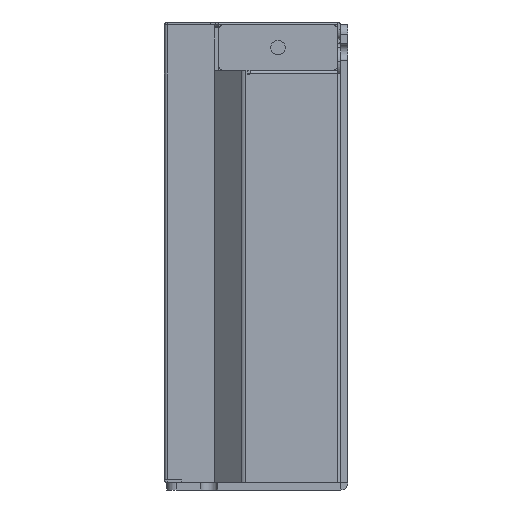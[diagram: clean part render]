
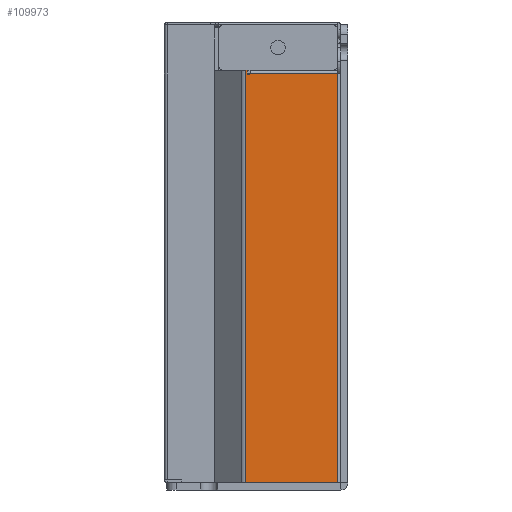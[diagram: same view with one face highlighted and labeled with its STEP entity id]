
A CAD part, left-side view. The second image highlights one B-rep face of the part: STEP entity #109973.
In plain terms, the highlighted planar face has unit normal (-1, 0, 0).
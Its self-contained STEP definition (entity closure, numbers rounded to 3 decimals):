
#67965=DIRECTION('',(0.,0.,1.));
#67966=VECTOR('',#67965,0.3);
#67967=CARTESIAN_POINT('',(-67.45,-37.85,-17.149));
#67968=LINE('',#67967,#67966);
#68029=DIRECTION('',(0.,1.,0.));
#68030=VECTOR('',#68029,85.5);
#68031=CARTESIAN_POINT('',(-67.45,-37.85,-16.849));
#68032=LINE('',#68031,#68030);
#68037=CARTESIAN_POINT('',(-67.45,-37.25,-17.449));
#68038=DIRECTION('',(-1.,0.,0.));
#68039=DIRECTION('',(0.,0.,1.));
#68040=AXIS2_PLACEMENT_3D('',#68037,#68038,#68039);
#68046=DIRECTION('',(0.,0.,1.));
#68047=VECTOR('',#68046,18.151);
#68048=CARTESIAN_POINT('',(-67.45,-37.25,-35.9));
#68049=LINE('',#68048,#68047);
#68184=DIRECTION('',(0.,-1.,0.));
#68185=VECTOR('',#68184,0.6);
#68186=CARTESIAN_POINT('',(-67.45,-37.25,-17.149));
#68187=LINE('',#68186,#68185);
#68209=DIRECTION('',(0.,0.,-1.));
#68210=VECTOR('',#68209,19.051);
#68211=CARTESIAN_POINT('',(-67.45,47.65,-16.849));
#68212=LINE('',#68211,#68210);
#68226=DIRECTION('',(0.,-1.,0.));
#68227=VECTOR('',#68226,84.9);
#68228=CARTESIAN_POINT('',(-67.45,47.65,-35.9));
#68229=LINE('',#68228,#68227);
#99521=CARTESIAN_POINT('',(-67.45,-37.85,-17.149));
#99522=VERTEX_POINT('',#99521);
#99523=CARTESIAN_POINT('',(-67.45,-37.85,-16.849));
#99524=VERTEX_POINT('',#99523);
#99531=CARTESIAN_POINT('',(-67.45,47.65,-16.849));
#99532=VERTEX_POINT('',#99531);
#99533=CARTESIAN_POINT('',(-67.45,-37.25,-35.9));
#99534=CARTESIAN_POINT('',(-67.45,-37.25,-17.749));
#99535=VERTEX_POINT('',#99533);
#99536=VERTEX_POINT('',#99534);
#99537=CARTESIAN_POINT('',(-67.45,47.65,-35.9));
#99538=VERTEX_POINT('',#99537);
#99539=CARTESIAN_POINT('',(-67.45,-37.25,-17.149));
#99540=VERTEX_POINT('',#99539);
#109954=CARTESIAN_POINT('',(-67.45,25.102,-16.6));
#109955=DIRECTION('',(1.,0.,0.));
#109956=DIRECTION('',(0.,-1.,0.));
#109957=AXIS2_PLACEMENT_3D('',#109954,#109955,#109956);
#109958=PLANE('',#109957);
#109960=ORIENTED_EDGE('',*,*,#109959,.F.);
#109962=ORIENTED_EDGE('',*,*,#109961,.F.);
#109964=ORIENTED_EDGE('',*,*,#109963,.F.);
#109965=ORIENTED_EDGE('',*,*,#109947,.F.);
#109966=ORIENTED_EDGE('',*,*,#109851,.F.);
#109968=ORIENTED_EDGE('',*,*,#109967,.F.);
#109970=ORIENTED_EDGE('',*,*,#109969,.T.);
#109971=EDGE_LOOP('',(#109960,#109962,#109964,#109965,#109966,#109968,#109970));
#109972=FACE_OUTER_BOUND('',#109971,.F.);
#68041=CIRCLE('',#68040,0.3);
#109851=EDGE_CURVE('',#99522,#99524,#67968,.T.);
#109947=EDGE_CURVE('',#99524,#99532,#68032,.T.);
#109959=EDGE_CURVE('',#99535,#99536,#68049,.T.);
#109961=EDGE_CURVE('',#99538,#99535,#68229,.T.);
#109963=EDGE_CURVE('',#99532,#99538,#68212,.T.);
#109967=EDGE_CURVE('',#99540,#99522,#68187,.T.);
#109969=EDGE_CURVE('',#99540,#99536,#68041,.T.);
#109973=ADVANCED_FACE('',(#109972),#109958,.F.);
